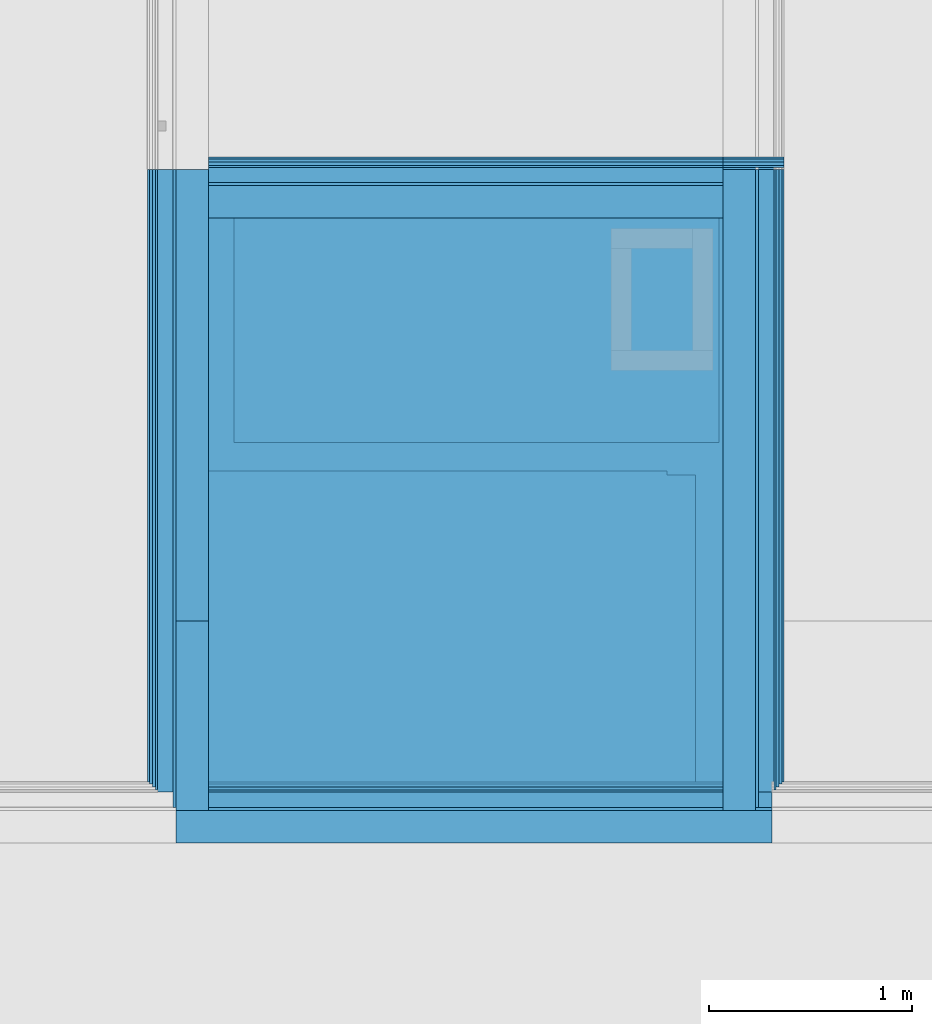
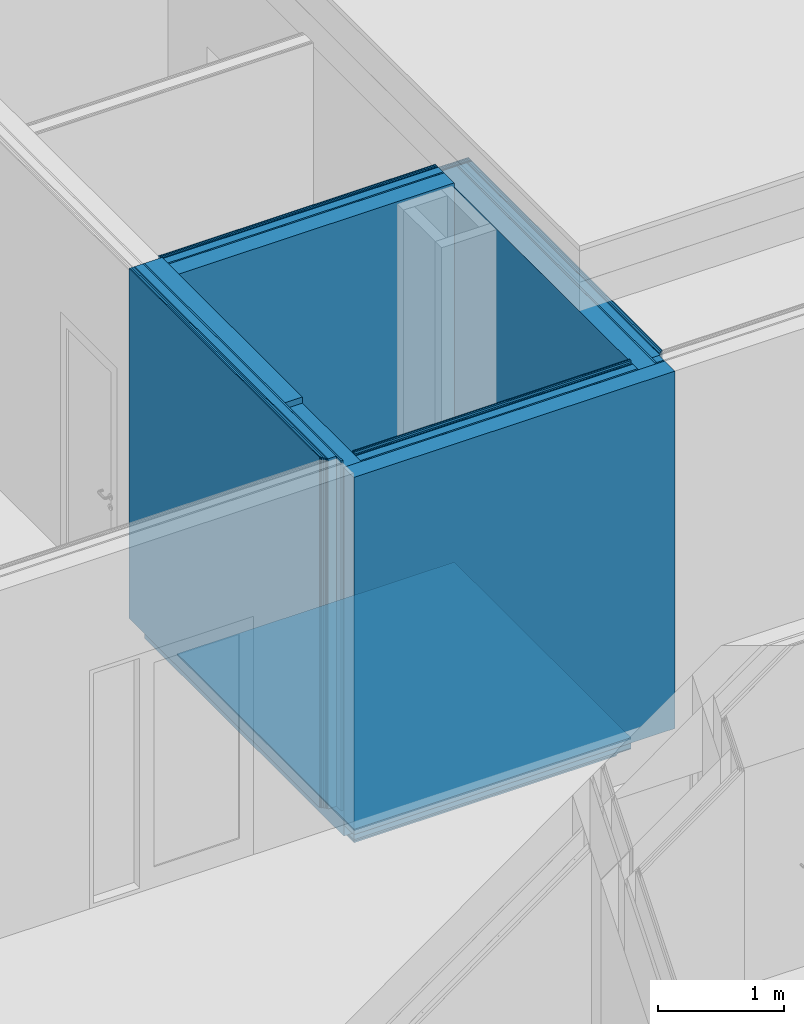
# One storey, part 90 of 139: 32 building element parts, 5 elements without a shape of their own.
"""IFC2X3 building model written with IfcOpenShell, lengths in millimetres."""

from ifc_helpers import new_model, entity, si_unit, converted_unit, derived_unit, money_unit, direction, frame, origin_with_axes, place, context, subcontext, project, spatial, faceted_brep, material, type_object, element, aggregate, save


model = new_model("IFC2X3")

# Units and contexts
model_context = context("Model", 3, precision=0.01, world=origin_with_axes(), true_north=direction((0.0, 1.0)))
body_context = subcontext(model_context, "Body", "Model", "MODEL_VIEW")
ifc_project = project(units=[si_unit("LENGTHUNIT", "METRE", prefix="MILLI"), si_unit("AREAUNIT", "SQUARE_METRE"), si_unit("VOLUMEUNIT", "CUBIC_METRE"), converted_unit("PLANEANGLEUNIT", "DEGREE", entity("IfcPlaneAngleMeasure", 0.0174532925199), si_unit("PLANEANGLEUNIT", "RADIAN"), dimensions=[0, 0, 0, 0, 0, 0, 0]), money_unit("EUR"), converted_unit("TIMEUNIT", "Year", entity("IfcTimeMeasure", 31556926.0), si_unit("TIMEUNIT", "SECOND"), dimensions=[0, 0, 1, 0, 0, 0, 0]), si_unit("MASSUNIT", "GRAM", prefix="KILO"), si_unit("THERMODYNAMICTEMPERATUREUNIT", "DEGREE_CELSIUS"), si_unit("LUMINOUSINTENSITYUNIT", "LUMEN"), si_unit("ENERGYUNIT", "JOULE", prefix="MEGA"), derived_unit("THERMALCONDUCTANCEUNIT", [(si_unit("POWERUNIT", "WATT"), 1), (si_unit("LENGTHUNIT", "METRE"), -1), (si_unit("THERMODYNAMICTEMPERATUREUNIT", "KELVIN"), -1)]), derived_unit("SPECIFICHEATCAPACITYUNIT", [(si_unit("ENERGYUNIT", "JOULE"), 1), (si_unit("MASSUNIT", "GRAM", prefix="KILO"), -1), (si_unit("THERMODYNAMICTEMPERATUREUNIT", "KELVIN"), -1)]), derived_unit("MASSDENSITYUNIT", [(si_unit("MASSUNIT", "GRAM", prefix="KILO"), 1), (si_unit("VOLUMEUNIT", "CUBIC_METRE"), -1)])], contexts=[model_context])

# Site, building, storey
site_placement = place(None, origin_with_axes())
site = spatial("IfcSite", under=ifc_project, at=site_placement, Name="Kolde pst 67a", CompositionType="ELEMENT")
building_placement = place(site_placement, origin_with_axes())
building = spatial("IfcBuilding", under=site, at=building_placement, Name="Riigigümnaasium", CompositionType="ELEMENT")
storey_placement = place(building_placement, frame((0.0, 0.0, 4600.0), z_axis=(0.0, 0.0, 1.0), x_axis=(1.0, 0.0, 0.0)))
storey = spatial("IfcBuildingStorey", under=building, at=storey_placement, Name="2. korrus", CompositionType="ELEMENT", Elevation=4600.0)

# Wall, building element parts
wall_type = type_object("IfcWallType", Name="SS-CLT-16/1_vill75+krohv 52 dB 300", PredefinedType="NOTDEFINED")
wall_1_placement = place(storey_placement, frame((26729.99923, 62421.1829534, -130.0), z_axis=(0.0, 0.0, 1.0), x_axis=(-1.0, 0.0, 0.0)))
wall_1 = element("IfcWall", 1, at=wall_1_placement, inside=storey, type_object=wall_type, Name="Sisesein")
ifc_material_1 = material(Name="_KANDETARIND - CLT ristkihtliimpuit vastavalt EK osale, CLT paigaldusvuugid teibitakse ROTHOBLAAS teibiga")
building_element_part_1_placement = place(wall_1_placement, origin_with_axes())
building_element_part_1 = element("IfcBuildingElementPart", 2, at=building_element_part_1_placement, material=ifc_material_1, Name="_KANDETARIND - CLT ristkihtliimpuit vastavalt EK osale, CLT paigaldusvuugid teibitakse ROTHOBLAAS teibiga", context=body_context, shape_type="Brep", body=[
    faceted_brep([(0.0, 0.0, 3450.0), (0.0, 0.0, 0.0), (0.0, -160.0, 0.0), (0.0, -160.0, 3450.0), (0.0, -160.0, 3489.0), (0.0, 0.0, 3489.0), (2529.99649583, 0.0, 3489.0), (2529.99649583, 0.0, 0.0), (2529.99649583, -160.0, 0.0), (2529.99649583, -160.0, 3489.0)], [[[0, 1, 2, 3, 4, 5]], [[1, 0, 5, 6, 7]], [[2, 1, 7, 8]], [[3, 2, 8, 9, 4]], [[6, 5, 4, 9]], [[7, 6, 9, 8]]]),
])
ifc_material_2 = material(Name="_ÕHKVAHE")
building_element_part_2_placement = place(wall_1_placement, origin_with_axes())
building_element_part_2 = element("IfcBuildingElementPart", 3, at=building_element_part_2_placement, material=ifc_material_2, Name="_ÕHKVAHE", context=body_context, shape_type="Brep", body=[
    faceted_brep([(0.0, -160.0, 127.0), (0.0, -175.0, 127.0), (0.0, -175.0, 3489.0), (0.0, -160.0, 3489.0), (2529.99649583, -175.0, 127.0), (2529.99649583, -160.0, 127.0), (2529.99649583, -175.0, 3489.0), (2529.99649583, -160.0, 3489.0)], [[[0, 1, 2, 3]], [[4, 1, 0, 5]], [[1, 4, 6, 2]], [[6, 7, 3, 2]], [[5, 0, 3, 7]], [[4, 5, 7, 6]]]),
])
ifc_material_3 = material(Name="_KARKASS - metallkarkass CW 75/50/06 ja UW 75/40/06, samm 600, vahel mineraalvill, helineeldetegur αw = 1.0,  ISOVER ACOUSTIC 75mm või samaväärne")
building_element_part_3_placement = place(wall_1_placement, origin_with_axes())
building_element_part_3 = element("IfcBuildingElementPart", 4, at=building_element_part_3_placement, material=ifc_material_3, Name="_KARKASS - metallkarkass CW 75/50/06 ja UW 75/40/06, samm 600, vahel mineraalvill, helineeldetegur αw = 1.0,  ISOVER ACOUSTIC 75mm või samaväärne", context=body_context, shape_type="Brep", body=[
    faceted_brep([(-300.0, -240.0, 127.0), (-300.000008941, -250.0, 127.0), (-300.000008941, -250.0, 3450.0), (-300.0, -240.0, 3450.0), (2529.99649583, -250.0, 127.0), (0.0, -240.0, 127.0), (0.0, -175.0, 127.0), (2529.99649583, -175.0, 127.0), (2529.99649583, -250.0, 3489.0), (0.0, -250.0, 3489.0), (0.0, -250.0, 3450.0), (0.0, -240.0, 3450.0), (0.0, -175.0, 3489.0), (2529.99649583, -175.0, 3489.0)], [[[0, 1, 2, 3]], [[4, 1, 0, 5, 6, 7]], [[1, 4, 8, 9, 10, 2]], [[10, 11, 3, 2]], [[5, 0, 3, 11]], [[6, 5, 11, 10, 9, 12]], [[7, 6, 12, 13]], [[4, 7, 13, 8]], [[8, 13, 12, 9]]]),
])
ifc_material_4 = material(Name="_PLAATMATERJAL - OSB3 plaat")
building_element_part_4_placement = place(wall_1_placement, origin_with_axes())
building_element_part_4 = element("IfcBuildingElementPart", 5, at=building_element_part_4_placement, material=ifc_material_4, Name="_PLAATMATERJAL - OSB3 plaat", context=body_context, shape_type="Brep", body=[
    faceted_brep([(-300.000008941, -250.0, 127.0), (-300.000008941, -260.0, 127.0), (-300.000008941, -260.0, 3450.0), (-300.000008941, -250.0, 3450.0), (2529.99649583, -260.0, 127.0), (2529.99649583, -250.0, 127.0), (2529.99649583, -260.0, 3489.0), (0.0, -260.0, 3489.0), (0.0, -260.0, 3450.0), (0.0, -250.0, 3450.0), (0.0, -250.0, 3489.0), (2529.99649583, -250.0, 3489.0)], [[[0, 1, 2, 3]], [[4, 1, 0, 5]], [[1, 4, 6, 7, 8, 2]], [[9, 3, 2, 8]], [[5, 0, 3, 9, 10, 11]], [[4, 5, 11, 6]], [[11, 10, 7, 6]], [[9, 8, 7, 10]]]),
])
ifc_material_5 = material(Name="_PLAATMATERJAL - tuletõkkekipsplaat, Knauf Red GKF või samaväärne")
building_element_part_5_placement = place(wall_1_placement, origin_with_axes())
building_element_part_5 = element("IfcBuildingElementPart", 6, at=building_element_part_5_placement, material=ifc_material_5, Name="_PLAATMATERJAL - tuletõkkekipsplaat, Knauf Red GKF või samaväärne", context=body_context, shape_type="Brep", body=[
    faceted_brep([(-300.000008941, -260.0, 127.0), (-300.000008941, -275.0, 127.0), (-300.000008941, -275.0, 3450.0), (-300.000008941, -260.0, 3450.0), (2529.99649583, -275.0, 127.0), (2529.99649583, -260.0, 127.0), (2529.99649583, -275.0, 3489.0), (0.0, -275.0, 3489.0), (0.0, -275.0, 3450.0), (0.0, -260.0, 3450.0), (0.0, -260.0, 3489.0), (2529.99649583, -260.0, 3489.0)], [[[0, 1, 2, 3]], [[4, 1, 0, 5]], [[1, 4, 6, 7, 8, 2]], [[9, 3, 2, 8]], [[5, 0, 3, 9, 10, 11]], [[4, 5, 11, 6]], [[11, 10, 7, 6]], [[9, 8, 7, 10]]]),
])
building_element_part_6_placement = place(wall_1_placement, origin_with_axes())
building_element_part_6 = element("IfcBuildingElementPart", 7, at=building_element_part_6_placement, material=ifc_material_5, Name="_PLAATMATERJAL - tuletõkkekipsplaat, Knauf Red GKF või samaväärne", context=body_context, shape_type="Brep", body=[
    faceted_brep([(-300.000008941, -275.0, 127.0), (-300.000008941, -290.0, 127.0), (-300.000008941, -290.0, 3450.0), (-300.000008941, -275.0, 3450.0), (2529.99649583, -290.0, 127.0), (2529.99649583, -275.0, 127.0), (2529.99649583, -290.0, 3489.0), (0.0, -290.0, 3489.0), (0.0, -290.0, 3450.0), (0.0, -275.0, 3450.0), (0.0, -275.0, 3489.0), (2529.99649583, -275.0, 3489.0)], [[[0, 1, 2, 3]], [[4, 1, 0, 5]], [[1, 4, 6, 7, 8, 2]], [[9, 3, 2, 8]], [[5, 0, 3, 9, 10, 11]], [[4, 5, 11, 6]], [[11, 10, 7, 6]], [[9, 8, 7, 10]]]),
])
ifc_material_6 = material(Name="_VIIMISTLUSKIHT - viimistlus vastavalt SA osale")
building_element_part_7_placement = place(wall_1_placement, origin_with_axes())
building_element_part_7 = element("IfcBuildingElementPart", 8, at=building_element_part_7_placement, material=ifc_material_6, Name="_VIIMISTLUSKIHT - viimistlus vastavalt SA osale", context=body_context, shape_type="Brep", body=[
    faceted_brep([(-300.000008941, -290.0, 130.0), (-300.000008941, -300.0, 130.0), (-300.000008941, -300.0, 3450.0), (-300.000008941, -290.0, 3450.0), (2529.99649583, -300.0, 130.0), (2529.99649583, -290.0, 130.0), (2529.99649583, -300.0, 3489.0), (0.0, -300.0, 3489.0), (0.0, -300.0, 3450.0), (0.0, -290.0, 3450.0), (0.0, -290.0, 3489.0), (2529.99649583, -290.0, 3489.0)], [[[0, 1, 2, 3]], [[4, 1, 0, 5]], [[1, 4, 6, 7, 8, 2]], [[9, 3, 2, 8]], [[5, 0, 3, 9, 10, 11]], [[4, 5, 11, 6]], [[11, 10, 7, 6]], [[9, 8, 7, 10]]]),
])
aggregate(wall_1, [building_element_part_1, building_element_part_2, building_element_part_3, building_element_part_4, building_element_part_5, building_element_part_6, building_element_part_7])

wall_2_placement = place(storey_placement, frame((26729.99923, 62661.1829534, -130.0), z_axis=(0.0, 0.0, 1.0), x_axis=(0.0, -1.0, 0.0)))
wall_2 = element("IfcWall", 9, at=wall_2_placement, inside=storey, type_object=wall_type, Name="Sisesein")
building_element_part_8_placement = place(wall_2_placement, origin_with_axes())
building_element_part_8 = element("IfcBuildingElementPart", 10, at=building_element_part_8_placement, material=ifc_material_6, Name="_VIIMISTLUSKIHT - viimistlus vastavalt SA osale", context=body_context, shape_type="Brep", body=[
    faceted_brep([(3011.18500557, 300.0, 130.0), (0.0, 300.0, 130.0), (0.0, 300.0, 3450.0), (3011.18500557, 300.0, 3450.0), (0.0, 290.0, 130.0), (3011.18500557, 290.0, 130.0), (0.0, 290.0, 3450.0), (3011.18500557, 290.0, 3450.0)], [[[0, 1, 2, 3]], [[4, 1, 0, 5]], [[1, 4, 6, 2]], [[7, 3, 2, 6]], [[5, 0, 3, 7]], [[4, 5, 7, 6]]]),
])
building_element_part_9_placement = place(wall_2_placement, origin_with_axes())
building_element_part_9 = element("IfcBuildingElementPart", 11, at=building_element_part_9_placement, material=ifc_material_5, Name="_PLAATMATERJAL - tuletõkkekipsplaat, Knauf Red GKF või samaväärne", context=body_context, shape_type="Brep", body=[
    faceted_brep([(3021.18500557, 290.0, 127.0), (0.0, 290.0, 127.0), (0.0, 290.0, 3450.0), (3021.18500557, 290.0, 3450.0), (0.0, 275.0, 127.0), (3021.18500557, 275.0, 127.0), (0.0, 275.0, 3450.0), (3021.18500557, 275.0, 3450.0)], [[[0, 1, 2, 3]], [[4, 1, 0, 5]], [[1, 4, 6, 2]], [[7, 3, 2, 6]], [[5, 0, 3, 7]], [[4, 5, 7, 6]]]),
])
building_element_part_10_placement = place(wall_2_placement, origin_with_axes())
building_element_part_10 = element("IfcBuildingElementPart", 12, at=building_element_part_10_placement, material=ifc_material_5, Name="_PLAATMATERJAL - tuletõkkekipsplaat, Knauf Red GKF või samaväärne", context=body_context, shape_type="Brep", body=[
    faceted_brep([(3036.18500557, 275.0, 127.0), (0.0, 275.0, 127.0), (0.0, 275.0, 3450.0), (3036.18500557, 275.0, 3450.0), (0.0, 260.0, 127.0), (3036.18500557, 260.0, 127.0), (0.0, 260.0, 3450.0), (3036.18500557, 260.0, 3450.0)], [[[0, 1, 2, 3]], [[4, 1, 0, 5]], [[1, 4, 6, 2]], [[7, 3, 2, 6]], [[5, 0, 3, 7]], [[4, 5, 7, 6]]]),
])
building_element_part_11_placement = place(wall_2_placement, origin_with_axes())
building_element_part_11 = element("IfcBuildingElementPart", 13, at=building_element_part_11_placement, material=ifc_material_4, Name="_PLAATMATERJAL - OSB3 plaat", context=body_context, shape_type="Brep", body=[
    faceted_brep([(3051.18500557, 260.0, 127.0), (0.0, 260.0, 127.0), (0.0, 260.0, 3450.0), (3051.18500557, 260.0, 3450.0), (0.0, 250.0, 127.0), (3051.18500557, 250.0, 127.0), (0.0, 250.0, 3450.0), (3051.18500557, 250.0, 3450.0)], [[[0, 1, 2, 3]], [[4, 1, 0, 5]], [[1, 4, 6, 2]], [[7, 3, 2, 6]], [[5, 0, 3, 7]], [[4, 5, 7, 6]]]),
])
building_element_part_12_placement = place(wall_2_placement, origin_with_axes())
building_element_part_12 = element("IfcBuildingElementPart", 14, at=building_element_part_12_placement, material=ifc_material_3, Name="_KARKASS - metallkarkass CW 75/50/06 ja UW 75/40/06, samm 600, vahel mineraalvill, helineeldetegur αw = 1.0,  ISOVER ACOUSTIC 75mm või samaväärne", context=body_context, shape_type="Brep", body=[
    faceted_brep([(3061.18500557, 250.0, 127.0), (0.0, 250.0, 127.0), (0.0, 250.0, 3450.0), (3061.18500557, 250.0, 3450.0), (0.0, 175.0, 127.0), (3061.18500557, 175.0, 127.0), (0.0, 175.0, 3450.0), (3061.18500557, 175.0, 3450.0)], [[[0, 1, 2, 3]], [[4, 1, 0, 5]], [[1, 4, 6, 2]], [[7, 3, 2, 6]], [[5, 0, 3, 7]], [[4, 5, 7, 6]]]),
])
building_element_part_13_placement = place(wall_2_placement, origin_with_axes())
building_element_part_13 = element("IfcBuildingElementPart", 15, at=building_element_part_13_placement, material=ifc_material_2, Name="_ÕHKVAHE", context=body_context, shape_type="Brep", body=[
    faceted_brep([(3136.18500557, 175.0, 127.0), (0.0, 175.0, 127.0), (0.0, 175.0, 3450.0), (3136.18500557, 175.0, 3450.0), (0.0, 160.0, 127.0), (3136.18500557, 160.0, 127.0), (0.0, 160.0, 3450.0), (3136.18500557, 160.0, 3450.0)], [[[0, 1, 2, 3]], [[4, 1, 0, 5]], [[1, 4, 6, 2]], [[7, 3, 2, 6]], [[5, 0, 3, 7]], [[4, 5, 7, 6]]]),
])
building_element_part_14_placement = place(wall_2_placement, origin_with_axes())
building_element_part_14 = element("IfcBuildingElementPart", 16, at=building_element_part_14_placement, material=ifc_material_1, Name="_KANDETARIND - CLT ristkihtliimpuit vastavalt EK osale, CLT paigaldusvuugid teibitakse ROTHOBLAAS teibiga", context=body_context, shape_type="Brep", body=[
    faceted_brep([(3151.18500557, 0.0, 0.0), (0.0, 0.0, 0.0), (0.0, 160.0, 0.0), (3151.18500557, 160.0, 0.0), (3151.18500557, 0.0, 3450.0), (0.0, 0.0, 3450.0), (0.0, 160.0, 3450.0), (3151.18500557, 160.0, 3450.0)], [[[0, 1, 2, 3]], [[4, 5, 1, 0]], [[2, 1, 5, 6]], [[3, 2, 6, 7]], [[3, 7, 4, 0]], [[7, 6, 5, 4]]]),
])
aggregate(wall_2, [building_element_part_8, building_element_part_9, building_element_part_10, building_element_part_11, building_element_part_12, building_element_part_13, building_element_part_14])

wall_3_placement = place(storey_placement, frame((24040.0027342, 62661.1832113, -520.0), z_axis=(0.0, 0.0, 1.0), x_axis=(0.0, -1.0, 0.0)))
wall_3 = element("IfcWall", 17, at=wall_3_placement, inside=storey, type_object=wall_type, Name="Sisesein")
building_element_part_15_placement = place(wall_3_placement, origin_with_axes())
building_element_part_15 = element("IfcBuildingElementPart", 18, at=building_element_part_15_placement, material=ifc_material_1, Name="_KANDETARIND - CLT ristkihtliimpuit vastavalt EK osale, CLT paigaldusvuugid teibitakse ROTHOBLAAS teibiga", context=body_context, shape_type="Brep", body=[
    faceted_brep([(3151.18526348, 160.0, 280.0), (0.0, 160.0, 280.0), (0.0, 160.0, 3899.0), (2221.18302698, 160.0, 3899.0), (2221.18302698, 160.0, 3840.0), (2381.18302698, 160.000268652, 3840.0), (3036.18526348, 160.000268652, 3840.0), (3151.18526415, 160.0, 3840.0), (3151.18537919, 160.0, 390.0), (0.0, 0.0, 280.0), (3151.18526348, 0.0, 280.0), (0.0, 0.0, 3899.0), (2221.18302698, 0.0, 3899.0), (2221.18302698, 0.0, 3840.0), (3151.18526415, 0.0, 3840.0), (3151.18537919, 0.0, 390.0)], [[[0, 1, 2, 3, 4, 5, 6, 7, 8]], [[9, 1, 0, 10]], [[1, 9, 11, 2]], [[12, 3, 2, 11]], [[4, 3, 12, 13]], [[5, 4, 13, 14, 7, 6]], [[10, 0, 8, 7, 14, 15]], [[9, 10, 15, 14, 13, 12, 11]]]),
])
building_element_part_16_placement = place(wall_3_placement, origin_with_axes())
building_element_part_16 = element("IfcBuildingElementPart", 19, at=building_element_part_16_placement, material=ifc_material_2, Name="_ÕHKVAHE", context=body_context, shape_type="Brep", body=[
    faceted_brep([(3136.18526348, 0.0, 520.0), (0.0, 0.0, 520.0), (0.0, 0.0, 3899.0), (3136.18526348, 0.0, 3899.0), (3136.18526348, 0.0, 3860.0), (0.0, -15.0, 520.0), (3136.18526348, -15.0, 520.0), (0.0, -15.0, 3899.0), (3136.18526348, -15.0, 3899.0)], [[[0, 1, 2, 3, 4]], [[5, 1, 0, 6]], [[1, 5, 7, 2]], [[7, 8, 3, 2]], [[6, 0, 4, 3, 8]], [[5, 6, 8, 7]]]),
])
building_element_part_17_placement = place(wall_3_placement, origin_with_axes())
building_element_part_17 = element("IfcBuildingElementPart", 20, at=building_element_part_17_placement, material=ifc_material_3, Name="_KARKASS - metallkarkass CW 75/50/06 ja UW 75/40/06, samm 600, vahel mineraalvill, helineeldetegur αw = 1.0,  ISOVER ACOUSTIC 75mm või samaväärne", context=body_context, shape_type="Brep", body=[
    faceted_brep([(3061.18526348, -15.0, 520.0), (0.0, -15.0, 520.0), (0.0, -15.0, 3899.0), (3061.18526348, -15.0, 3899.0), (0.0, -90.0, 520.0), (3061.18526348, -90.0, 520.0), (0.0, -90.0, 3899.0), (3061.18526348, -90.0, 3899.0)], [[[0, 1, 2, 3]], [[4, 1, 0, 5]], [[1, 4, 6, 2]], [[6, 7, 3, 2]], [[5, 0, 3, 7]], [[4, 5, 7, 6]]]),
])
building_element_part_18_placement = place(wall_3_placement, origin_with_axes())
building_element_part_18 = element("IfcBuildingElementPart", 21, at=building_element_part_18_placement, material=ifc_material_4, Name="_PLAATMATERJAL - OSB3 plaat", context=body_context, shape_type="Brep", body=[
    faceted_brep([(3051.18526348, -90.0, 520.0), (0.0, -90.0, 520.0), (0.0, -90.0, 3899.0), (3051.18526348, -90.0, 3899.0), (0.0, -100.0, 520.0), (3051.18526348, -100.0, 520.0), (0.0, -100.0, 3899.0), (3051.18526348, -100.0, 3899.0)], [[[0, 1, 2, 3]], [[4, 1, 0, 5]], [[1, 4, 6, 2]], [[6, 7, 3, 2]], [[5, 0, 3, 7]], [[4, 5, 7, 6]]]),
])
building_element_part_19_placement = place(wall_3_placement, origin_with_axes())
building_element_part_19 = element("IfcBuildingElementPart", 22, at=building_element_part_19_placement, material=ifc_material_5, Name="_PLAATMATERJAL - tuletõkkekipsplaat, Knauf Red GKF või samaväärne", context=body_context, shape_type="Brep", body=[
    faceted_brep([(3036.18526348, -100.0, 520.0), (0.0, -100.0, 520.0), (0.0, -100.0, 3899.0), (3036.18526348, -100.0, 3899.0), (0.0, -115.0, 520.0), (3036.18526348, -115.0, 520.0), (0.0, -115.0, 3899.0), (3036.18526348, -115.0, 3899.0)], [[[0, 1, 2, 3]], [[4, 1, 0, 5]], [[1, 4, 6, 2]], [[6, 7, 3, 2]], [[5, 0, 3, 7]], [[4, 5, 7, 6]]]),
])
building_element_part_20_placement = place(wall_3_placement, origin_with_axes())
building_element_part_20 = element("IfcBuildingElementPart", 23, at=building_element_part_20_placement, material=ifc_material_5, Name="_PLAATMATERJAL - tuletõkkekipsplaat, Knauf Red GKF või samaväärne", context=body_context, shape_type="Brep", body=[
    faceted_brep([(3021.18526348, -115.0, 520.0), (0.0, -115.0, 520.0), (0.0, -115.0, 3899.0), (3021.18526348, -115.0, 3899.0), (0.0, -130.0, 520.0), (3021.18526348, -130.0, 520.0), (0.0, -130.0, 3899.0), (3021.18526348, -130.0, 3899.0)], [[[0, 1, 2, 3]], [[4, 1, 0, 5]], [[1, 4, 6, 2]], [[6, 7, 3, 2]], [[5, 0, 3, 7]], [[4, 5, 7, 6]]]),
])
building_element_part_21_placement = place(wall_3_placement, origin_with_axes())
building_element_part_21 = element("IfcBuildingElementPart", 24, at=building_element_part_21_placement, material=ifc_material_6, Name="_VIIMISTLUSKIHT - viimistlus vastavalt SA osale", context=body_context, shape_type="Brep", body=[
    faceted_brep([(3011.18526348, -130.0, 520.0), (0.0, -130.0, 520.0), (0.0, -130.0, 3899.0), (3011.18526348, -130.0, 3899.0), (0.0, -140.0, 520.0), (3011.18526348, -140.0, 520.0), (0.0, -140.0, 3899.0), (3011.18526348, -140.0, 3899.0)], [[[0, 1, 2, 3]], [[4, 1, 0, 5]], [[1, 4, 6, 2]], [[6, 7, 3, 2]], [[5, 0, 3, 7]], [[4, 5, 7, 6]]]),
])
aggregate(wall_3, [building_element_part_15, building_element_part_16, building_element_part_17, building_element_part_18, building_element_part_19, building_element_part_20, building_element_part_21])

wall_4_placement = place(storey_placement, frame((26969.99923, 59349.9979478, -130.0), z_axis=(0.0, 0.0, 1.0), x_axis=(-1.0, 0.0, 0.0)))
wall_4 = element("IfcWall", 25, at=wall_4_placement, inside=storey, type_object=wall_type, Name="Sisesein")
building_element_part_22_placement = place(wall_4_placement, origin_with_axes())
building_element_part_22 = element("IfcBuildingElementPart", 26, at=building_element_part_22_placement, material=ifc_material_1, Name="_KANDETARIND - CLT ristkihtliimpuit vastavalt EK osale, CLT paigaldusvuugid teibitakse ROTHOBLAAS teibiga", context=body_context, shape_type="Brep", body=[
    faceted_brep([(2929.99649583, -160.0, 3450.0), (0.0, -160.0, 3450.0), (0.0, -160.0, 0.0), (2929.99649583, -160.0, 0.0), (0.0, 0.0, 3450.0), (2929.99649583, 0.0, 3450.0), (0.0, 0.0, 0.0), (2929.99649583, 0.0, 0.0)], [[[0, 1, 2, 3]], [[4, 1, 0, 5]], [[1, 4, 6, 2]], [[3, 2, 6, 7]], [[5, 0, 3, 7]], [[4, 5, 7, 6]]]),
])
building_element_part_23_placement = place(wall_4_placement, origin_with_axes())
building_element_part_23 = element("IfcBuildingElementPart", 27, at=building_element_part_23_placement, material=ifc_material_2, Name="_ÕHKVAHE", context=body_context, shape_type="Brep", body=[
    faceted_brep([(2769.99649583, -175.0, 3450.0), (240.0, -175.0, 3450.0), (240.0, -175.0, 127.0), (2769.99649583, -175.0, 127.0), (240.0, -160.0, 3450.0), (2769.99649583, -159.999999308, 3450.0), (240.0, -160.0, 127.0), (2769.99649583, -159.999884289, 127.0)], [[[0, 1, 2, 3]], [[4, 1, 0, 5]], [[1, 4, 6, 2]], [[3, 2, 6, 7]], [[5, 0, 3, 7]], [[4, 5, 7, 6]]]),
    faceted_brep([(80.0, -175.0, 3450.0), (0.0, -175.0, 3450.0), (0.0, -175.0, 127.0), (80.0, -175.0, 127.0), (0.0, -160.0, 3450.0), (80.0, -160.0, 3450.0), (0.0, -160.0, 127.0), (80.0, -160.0, 127.0)], [[[0, 1, 2, 3]], [[4, 1, 0, 5]], [[1, 4, 6, 2]], [[3, 2, 6, 7]], [[5, 0, 3, 7]], [[4, 5, 7, 6]]]),
])
building_element_part_24_placement = place(wall_4_placement, origin_with_axes())
building_element_part_24 = element("IfcBuildingElementPart", 28, at=building_element_part_24_placement, material=ifc_material_3, Name="_KARKASS - metallkarkass CW 75/50/06 ja UW 75/40/06, samm 600, vahel mineraalvill, helineeldetegur αw = 1.0,  ISOVER ACOUSTIC 75mm või samaväärne", context=body_context, shape_type="Brep", body=[
    faceted_brep([(2769.99649583, -250.0, 3450.0), (240.0, -250.0, 3450.0), (240.0, -250.0, 127.0), (2769.99649583, -250.0, 127.0), (240.0, -175.0, 3450.0), (2769.99649583, -175.0, 3450.0), (240.0, -175.0, 127.0), (2769.99649583, -175.0, 127.0)], [[[0, 1, 2, 3]], [[4, 1, 0, 5]], [[1, 4, 6, 2]], [[3, 2, 6, 7]], [[5, 0, 3, 7]], [[4, 5, 7, 6]]]),
    faceted_brep([(65.0, -250.0, 3450.0), (0.0, -250.0, 3450.0), (0.0, -250.0, 127.0), (65.0, -250.0, 127.0), (0.0, -175.0, 3450.0), (65.0, -175.0, 3450.0), (0.0, -175.0, 127.0), (65.0, -175.0, 127.0)], [[[0, 1, 2, 3]], [[4, 1, 0, 5]], [[1, 4, 6, 2]], [[3, 2, 6, 7]], [[5, 0, 3, 7]], [[4, 5, 7, 6]]]),
])
building_element_part_25_placement = place(wall_4_placement, origin_with_axes())
building_element_part_25 = element("IfcBuildingElementPart", 29, at=building_element_part_25_placement, material=ifc_material_4, Name="_PLAATMATERJAL - OSB3 plaat", context=body_context, shape_type="Brep", body=[
    faceted_brep([(2769.99649583, -260.0, 3450.0), (240.0, -260.0, 3450.0), (240.0, -260.0, 127.0), (2769.99649583, -260.0, 127.0), (240.0, -250.0, 3450.0), (2769.99649583, -250.0, 3450.0), (240.0, -250.0, 127.0), (2769.99649583, -250.0, 127.0)], [[[0, 1, 2, 3]], [[4, 1, 0, 5]], [[1, 4, 6, 2]], [[3, 2, 6, 7]], [[5, 0, 3, 7]], [[4, 5, 7, 6]]]),
])
building_element_part_26_placement = place(wall_4_placement, origin_with_axes())
building_element_part_26 = element("IfcBuildingElementPart", 30, at=building_element_part_26_placement, material=ifc_material_5, Name="_PLAATMATERJAL - tuletõkkekipsplaat, Knauf Red GKF või samaväärne", context=body_context, shape_type="Brep", body=[
    faceted_brep([(2769.99622717, -275.0, 3450.0), (240.000268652, -275.0, 3450.0), (240.0, -275.0, 127.0), (2769.99649583, -275.0, 127.0), (240.0, -260.0, 3450.0), (2769.99649583, -260.0, 3450.0), (240.0, -260.0, 127.0), (2769.99649583, -260.0, 127.0)], [[[0, 1, 2, 3]], [[4, 1, 0, 5]], [[1, 4, 6, 2]], [[3, 2, 6, 7]], [[5, 0, 3, 7]], [[4, 5, 7, 6]]]),
])
building_element_part_27_placement = place(wall_4_placement, origin_with_axes())
building_element_part_27 = element("IfcBuildingElementPart", 31, at=building_element_part_27_placement, material=ifc_material_5, Name="_PLAATMATERJAL - tuletõkkekipsplaat, Knauf Red GKF või samaväärne", context=body_context, shape_type="Brep", body=[
    faceted_brep([(240.000268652, -275.0, 3470.0), (240.000268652, -290.0, 3470.0), (2769.99649583, -290.0, 3470.0), (2769.99649583, -275.0, 3470.0), (240.000268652, -290.0, 3450.0), (240.000268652, -275.0, 3450.0), (240.0, -275.0, 0.0), (240.0, -290.0, 0.0), (2769.99649583, -290.0, 0.0), (2769.99649583, -275.0, 0.0)], [[[0, 1, 2, 3]], [[4, 1, 0, 5, 6, 7]], [[1, 4, 7, 8, 2]], [[9, 3, 2, 8]], [[5, 0, 3, 9, 6]], [[6, 9, 8, 7]]]),
])
building_element_part_28_placement = place(wall_4_placement, origin_with_axes())
building_element_part_28 = element("IfcBuildingElementPart", 32, at=building_element_part_28_placement, material=ifc_material_6, Name="_VIIMISTLUSKIHT - viimistlus vastavalt SA osale", context=body_context, shape_type="Brep", body=[
    faceted_brep([(240.000268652, -290.0, 3470.0), (240.000268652, -300.0, 3470.0), (2769.99649583, -300.0, 3470.0), (2769.99649583, -290.0, 3470.0), (240.000268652, -300.0, 3450.0), (240.000268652, -290.0, 3450.0), (240.0, -290.0, 0.0), (240.0, -300.0, 0.0), (2769.99649583, -300.0, 0.0), (2769.99649583, -290.0, 0.0)], [[[0, 1, 2, 3]], [[4, 1, 0, 5, 6, 7]], [[1, 4, 7, 8, 2]], [[9, 3, 2, 8]], [[5, 0, 3, 9, 6]], [[6, 9, 8, 7]]]),
])
aggregate(wall_4, [building_element_part_22, building_element_part_23, building_element_part_24, building_element_part_25, building_element_part_26, building_element_part_27, building_element_part_28])

# Slab, building element parts
slab_type = type_object("IfcSlabType", Name="VL-MK-10/1_ köögi tehno šahti lagi 35 dB 130", PredefinedType="NOTDEFINED")
slab_placement = place(storey_placement, frame((24200.0027342, 59624.9979478, -430.0), z_axis=(0.0, 0.0, 1.0), x_axis=(1.0, 0.0, 0.0)))
slab = element("IfcSlab", 33, at=slab_placement, inside=storey, type_object=slab_type, Name="VAHELAGI", PredefinedType="NOTDEFINED")
building_element_part_29_placement = place(slab_placement, origin_with_axes())
building_element_part_29 = element("IfcBuildingElementPart", 34, at=building_element_part_29_placement, material=ifc_material_5, Name="_PLAATMATERJAL - tuletõkkekipsplaat, Knauf Red GKF või samaväärne", context=body_context, shape_type="Brep", body=[
    faceted_brep([(2529.99649583, 0.0, 115.0), (2529.99649583, 0.0, 130.0), (0.0, 0.0, 130.0), (0.0, 0.0, 115.0), (2529.99649583, 2796.18500557, 115.0), (2529.99649583, 2796.18500557, 130.0), (0.0, 2796.18500557, 130.0), (0.0, 2796.18500557, 115.0)], [[[0, 1, 2, 3]], [[4, 5, 1, 0]], [[2, 1, 5, 6]], [[3, 2, 6, 7]], [[3, 7, 4, 0]], [[7, 6, 5, 4]]]),
])
ifc_material_7 = material(Name="_KARKASS - metallkarkass CW 100/50/06 ja UW 100/40/06, samm 600, vahel mineraalvill, helineeldetegur αw = 1.0,  ISOVER ACOUSTIC 100mm või samaväärne")
building_element_part_30_placement = place(slab_placement, origin_with_axes())
building_element_part_30 = element("IfcBuildingElementPart", 35, at=building_element_part_30_placement, material=ifc_material_7, Name="_KARKASS - metallkarkass CW 100/50/06 ja UW 100/40/06, samm 600, vahel mineraalvill, helineeldetegur αw = 1.0,  ISOVER ACOUSTIC 100mm või samaväärne", context=body_context, shape_type="Brep", body=[
    faceted_brep([(2529.99649583, 0.0, 30.0), (2529.99649583, 0.0, 115.0), (0.0, 0.0, 115.0), (0.0, 0.0, 30.0), (2529.99649583, 2796.18500557, 30.0), (2529.99649583, 2796.18500557, 115.0), (0.0, 2796.18500557, 115.0), (0.0, 2796.18500557, 30.0)], [[[0, 1, 2, 3]], [[4, 5, 1, 0]], [[2, 1, 5, 6]], [[3, 2, 6, 7]], [[3, 7, 4, 0]], [[7, 6, 5, 4]]]),
])
building_element_part_31_placement = place(slab_placement, origin_with_axes())
building_element_part_31 = element("IfcBuildingElementPart", 36, at=building_element_part_31_placement, material=ifc_material_5, Name="_PLAATMATERJAL - tuletõkkekipsplaat, Knauf Red GKF või samaväärne", context=body_context, shape_type="Brep", body=[
    faceted_brep([(0.0, 1554.01531775, 15.0), (0.0, 0.0, 15.0), (0.0, 0.0, 30.0), (0.0, 2796.18500557, 30.0), (0.0, 2796.18500557, 20.0), (0.0, 1554.01531775, 20.0), (2255.99649583, 1554.01531775, 15.0), (2255.99649583, 1534.01531775, 15.0), (2409.99649583, 1534.01531775, 15.0), (2409.99649583, 0.0, 15.0), (2409.99649583, 0.0, 20.0), (2529.99649583, 0.0, 20.0), (2529.99649583, 0.0, 30.0), (2529.99649583, 2796.18500557, 30.0), (125.0, 2796.18500557, 20.0), (2529.99649583, 2796.18500557, 20.0), (2509.99649583, 2796.18500557, 20.0), (2509.99649583, 2796.18500557, 15.0), (125.0, 2796.18500557, 15.0), (125.0, 1694.01531775, 20.0), (2509.99649583, 1694.01531775, 20.0), (2409.99649583, 1534.01531775, 20.0), (2255.99649583, 1534.01531775, 20.0), (2255.99649583, 1554.01531775, 20.0), (2509.99649583, 1694.01531775, 15.0), (125.0, 1694.01531775, 15.0)], [[[0, 1, 2, 3, 4, 5]], [[1, 0, 6, 7, 8, 9]], [[2, 1, 9, 10, 11, 12]], [[3, 2, 12, 13]], [[14, 4, 3, 13, 15, 16, 17, 18]], [[5, 4, 14, 19, 20, 16, 15, 11, 10, 21, 22, 23]], [[0, 5, 23, 6]], [[23, 22, 7, 6]], [[21, 8, 7, 22]], [[10, 9, 8, 21]], [[12, 11, 15, 13]], [[20, 24, 17, 16]], [[24, 25, 18, 17]], [[25, 19, 14, 18]], [[25, 24, 20, 19]]]),
])
building_element_part_32_placement = place(slab_placement, origin_with_axes())
building_element_part_32 = element("IfcBuildingElementPart", 37, at=building_element_part_32_placement, material=ifc_material_5, Name="_PLAATMATERJAL - tuletõkkekipsplaat, Knauf Red GKF või samaväärne", context=body_context, shape_type="Brep", body=[
    faceted_brep([(2255.99649583, 1554.01531775, 0.0), (2255.99649583, 1554.01531775, 15.0), (2255.99649583, 1534.01531775, 15.0), (2255.99649583, 1534.01531775, 0.0), (0.0, 1554.01531775, 15.0), (0.0, 1554.01531775, 0.0), (0.0, 0.0, 15.0), (2394.99649583, 0.0, 15.0), (2394.99649583, 1534.01531775, 15.0), (2394.99649583, 1534.01531775, 0.0), (2394.99649583, 0.0, 0.0), (0.0, 0.0, 0.0)], [[[0, 1, 2, 3]], [[4, 1, 0, 5]], [[1, 4, 6, 7, 8, 2]], [[8, 9, 3, 2]], [[5, 0, 3, 9, 10, 11]], [[4, 5, 11, 6]], [[10, 7, 6, 11]], [[9, 8, 7, 10]]]),
    faceted_brep([(125.0, 1694.01531775, 15.0), (2509.99649583, 1694.01531775, 15.0), (2509.99649583, 2796.18500557, 15.0), (125.0, 2796.18500557, 15.0), (125.0, 1694.01531775, 0.0), (2509.99649583, 1694.01531775, 0.0), (2509.99649583, 2796.18500557, 0.0), (125.0, 2796.18500557, 0.0)], [[[0, 1, 2, 3]], [[1, 0, 4, 5]], [[6, 2, 1, 5]], [[2, 6, 7, 3]], [[4, 0, 3, 7]], [[4, 7, 6, 5]]]),
])
aggregate(slab, [building_element_part_29, building_element_part_30, building_element_part_31, building_element_part_32])

save(model, "model.ifc")
